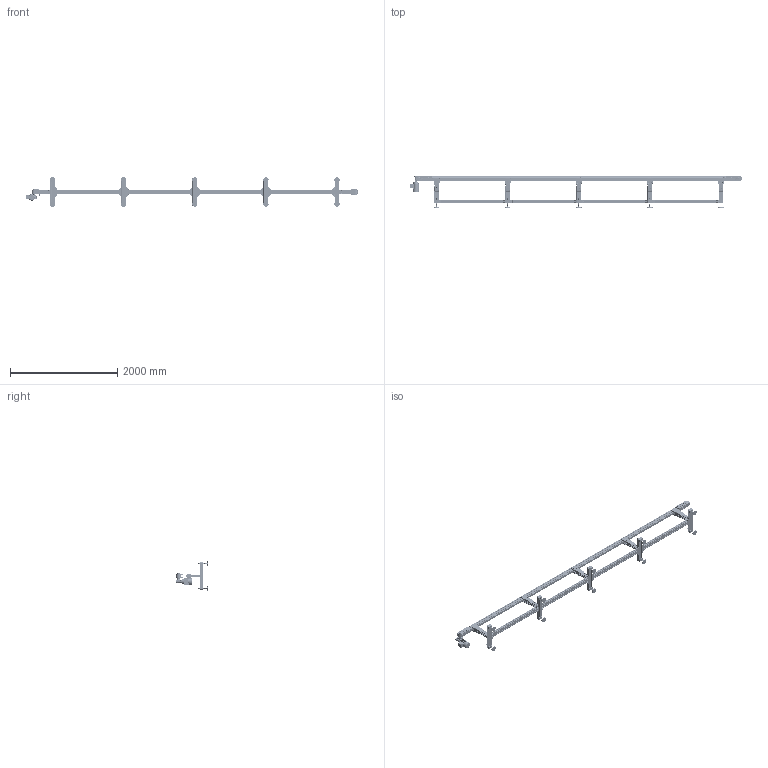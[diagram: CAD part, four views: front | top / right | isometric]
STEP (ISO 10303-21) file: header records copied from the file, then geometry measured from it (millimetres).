
FILE_DESCRIPTION (( 'STEP AP203' ), '1' );
FILE_NAME ('NASTRO_PISTE_PARALLELE.step', '2026-04-28T11:10:23', ( 'Utente Windows' ), ( '' ), 'SwSTEP 2.0', 'SolidWorks 2024', '' );
FILE_SCHEMA (( 'CONFIG_CONTROL_DESIGN' ));
Length unit declared in the file: millimetre
Products named in the file (39): D95_L35_TAPPETO_TRAINO_PISTA_SINGOLA_DX; 2010.000.072_L_Default<A macchina>; 084.301.000 VITI ALUSIC_084.301.003; 084.802.019_084.802.019; 084.302.000 DADI ALUSIC 13x13-1_084.302.004; GAMBE_45X90_V2_PISTA_SINGOLA_Default<A macchina>; 084.802.062; TRAVERSA_GAMBE_45X90_Default<A macchina>; 084.808.003_084.808.003; CH04P_DX; 2010.000.073; RONDELLE FASCIA LARGA UNI 6593_8.4x24 UNI 6593; 2010.000.072; PIEDE_1; 084.802.027; ANGOLARE_43; 084.405.001; 084.402.005; 084.812.012; D95_L35_TAPPETO_RINVIO; 084.802.034_084.802.034; FLANGIA_GAMBA_95_CON GIUNTI; PROFILO_POLIZENE_TAPPETO_L35_Default<A macchina>; NASTRO_PISTE_PARALLELE; 084.305.003-1; 084.808.002_084.808.002; 084.807.005; 2010.000.074; 084.301.000 VITI ALUSIC1_084.301.003; TAPPETO_STANDARD; 084.302.000 DADI ALUSIC 13x13-1_084.302.009; VITI TE UNI 5739_M8x20 UNI 5739; 084.802.071; TAPPO_PROFILO_45X90; TELAIO_45X90_Default<A macchina>; 084.812.010; CHIAVETTE_A 6x6x60 UNI 6604-69; RONDELLE UNI 6592_8.4x17 UNI 6592; 084.803.003
Assembly tree (129 placements, depth 4):
  NASTRO_PISTE_PARALLELE
    TAPPETO_STANDARD
    PROFILO_POLIZENE_TAPPETO_L35_Default<A macchina>  x2
    TELAIO_45X90_Default<A macchina>
    D95_L35_TAPPETO_TRAINO_PISTA_SINGOLA_DX
      084.802.019_084.802.019
      084.808.002_084.808.002
      084.803.003  x2
      084.808.003_084.808.003
      CHIAVETTE_A 6x6x60 UNI 6604-69
      084.807.005
      084.802.027
      084.802.034_084.802.034
      084.812.012
      084.802.071
      VITI TE UNI 5739_M8x20 UNI 5739
      RONDELLE FASCIA LARGA UNI 6593_8.4x24 UNI 6593
      084.802.062
    D95_L35_TAPPETO_RINVIO
      084.812.010
      084.802.019_084.802.019  x2
      084.808.002_084.808.002  x2
      084.803.003  x2
      084.802.071  x2
    CH04P_DX
    GAMBE_45X90_V2_PISTA_SINGOLA_Default<A macchina>  x5
    FLANGIA_GAMBA_95_CON GIUNTI  x10
      2010.000.072
        2010.000.072_L_Default<A macchina>
        2010.000.073
        2010.000.074
      084.302.000 DADI ALUSIC 13x13-1_084.302.004
      RONDELLE UNI 6592_8.4x17 UNI 6592
      084.301.000 VITI ALUSIC1_084.301.003
    TAPPO_PROFILO_45X90  x18
    PIEDE_1  x10
      084.405.001
      084.402.005
      084.301.000 VITI ALUSIC1_084.301.003
      084.302.000 DADI ALUSIC 13x13-1_084.302.004
    TRAVERSA_GAMBE_45X90_Default<A macchina>  x4
    ANGOLARE_43  x16
      084.305.003-1
      084.302.000 DADI ALUSIC 13x13-1_084.302.009
      084.301.000 VITI ALUSIC_084.301.003
Bounding box: 6202.99 x 604.5 x 554.62 mm (x, y, z)
Volume: 29538527.8 mm3; surface area: 17214736.9 mm2
Topology: 497 solids, 506 shells, 28270 faces, 73575 edges, 46629 vertices
Faces by surface type: plane 10500, cylinder 8334, bspline 4229, cone 2521, torus 2367, sphere 319
Entity records: 168919 total; most frequent: CARTESIAN_POINT 71242, ORIENTED_EDGE 20228, DIRECTION 17599, EDGE_CURVE 10114, VERTEX_POINT 6499, AXIS2_PLACEMENT_3D 6209, VECTOR 5181, LINE 5181
